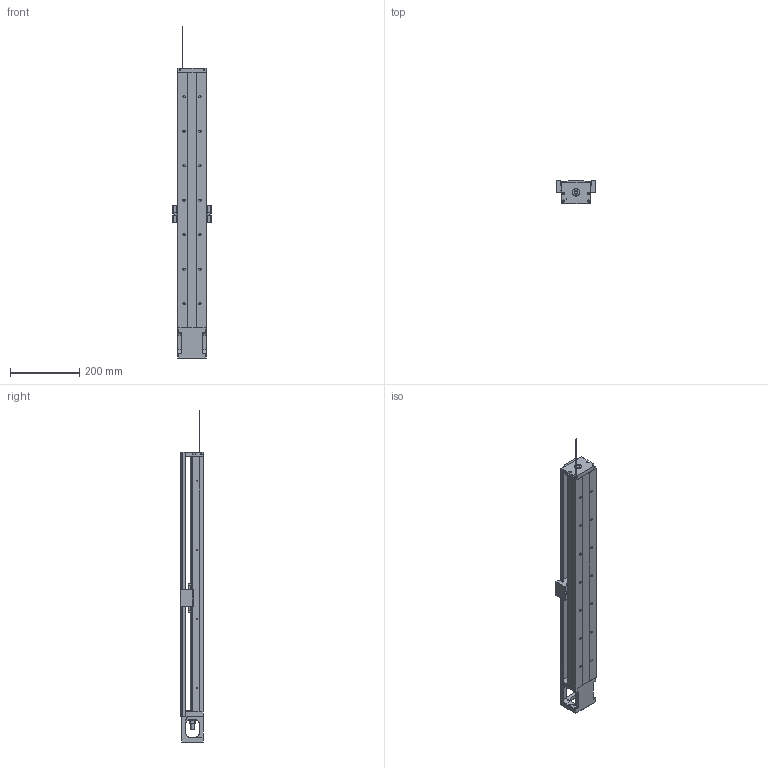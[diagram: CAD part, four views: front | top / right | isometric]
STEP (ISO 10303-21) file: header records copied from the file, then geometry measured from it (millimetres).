
FILE_DESCRIPTION(/* description */ (''),/* implementation_level */ '2;1');
FILE_NAME(/* name */ 'KP46S-740-C-D.stp',/* time_stamp */ '2020-06-05T10:43:55+08:00',/* author */ (''),/* organization */ (''),/* preprocessor_version */ 'ST-DEVELOPER v14',/* originating_system */ 'SIEMENS PLM Software NX 8.0',/* authorisation */ '');
FILE_SCHEMA (('AUTOMOTIVE_DESIGN { 1 0 10303 214 3 1 1 1 }'));
Length unit declared in the file: millimetre
Products named in the file (1): model1
Bounding box: 112 x 68 x 961.7 mm (x, y, z)
Volume: 2062451.3 mm3; surface area: 539939.8 mm2
Topology: 7 solids, 18 shells, 723 faces, 1901 edges, 1257 vertices
Faces by surface type: plane 342, cylinder 264, cone 59, bspline 50, torus 8
Full cylindrical faces by diameter (mm): 2 x2, 2.11 x2, 2.15 x8, 2.42 x6, 2.5 x4, 3 x4, 3.2 x4, 3.3 x12, 3.4 x8, 4 x6, 4.2 x4, 4.5 x8, 5 x8, 6 x8, 6.35 x2, 6.6 x14, 6.7 x2, 8.7 x4, 9.6 x1, 10 x4, 11 x14, 12 x1, 14.95 x2, 15 x1, 16 x2, 22 x3, 27.5 x1, 44 x1, 50 x1
Entity records: 32550 total; most frequent: CARTESIAN_POINT 13331, ORIENTED_EDGE 3268, DIRECTION 3176, EDGE_CURVE 1634, AXIS2_PLACEMENT_3D 1182, VERTEX_POINT 1179, EDGE_LOOP 1027, LINE 812
